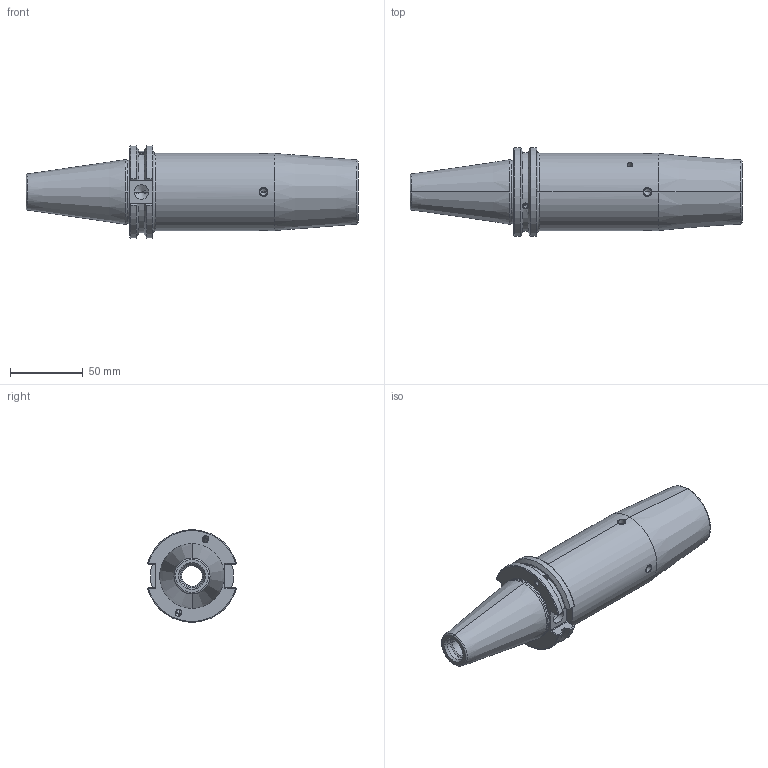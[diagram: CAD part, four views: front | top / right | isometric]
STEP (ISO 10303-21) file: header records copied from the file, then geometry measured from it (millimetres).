
FILE_DESCRIPTION((''),'2;1');
FILE_NAME('CAT40ADB-SFH25_4C-160','2020-09-02T08:33:15',('ssktool'),(''),'CREO PARAMETRIC BY PTC INC, 2018100','CREO PARAMETRIC BY PTC INC, 2018100','');
FILE_SCHEMA(('CONFIG_CONTROL_DESIGN'));
Length unit declared in the file: millimetre
Products named in the file (1): CAT40ADB-SFH25_4C-160
Bounding box: 228.25 x 60.84 x 63.27 mm (x, y, z)
Volume: 343484.4 mm3; surface area: 56340.6 mm2
Topology: 1 solids, 10 shells, 203 faces, 542 edges, 339 vertices
Faces by surface type: cylinder 86, plane 55, cone 40, torus 18, bspline 4
Entity records: 6969 total; most frequent: CARTESIAN_POINT 2048, DIRECTION 1002, ORIENTED_EDGE 992, EDGE_CURVE 524, AXIS2_PLACEMENT_3D 398, VERTEX_POINT 339, EDGE_LOOP 235, VECTOR 206
